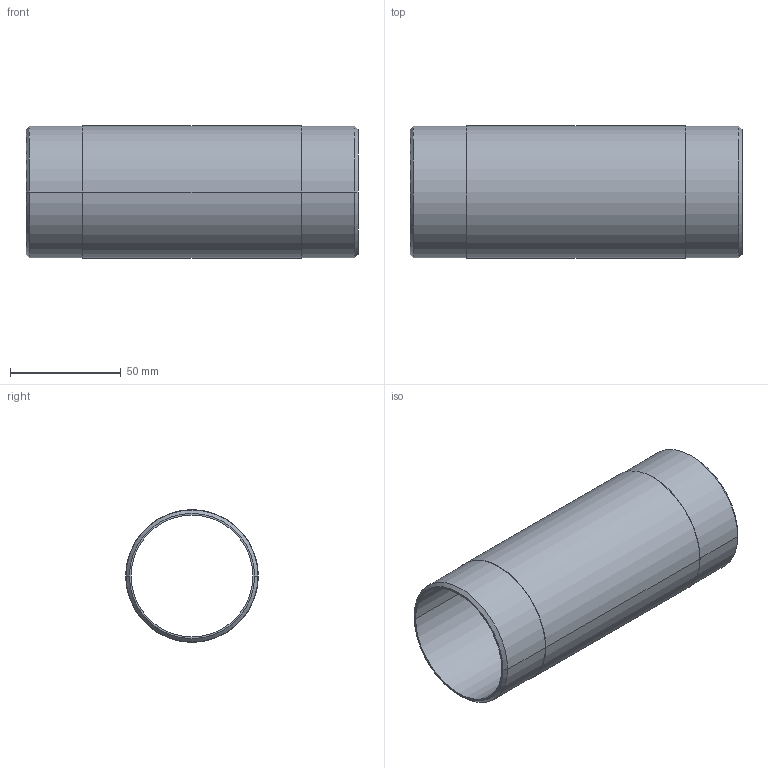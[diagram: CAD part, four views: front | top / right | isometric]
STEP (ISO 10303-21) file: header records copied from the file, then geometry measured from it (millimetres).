
FILE_DESCRIPTION((''),'2;1');
FILE_NAME('71118035','2012-04-24T',('LVVCSAVA'),('Copyright by Leybold GmbH'),'PRO/ENGINEER BY PARAMETRIC TECHNOLOGY CORPORATION, 2010430','PRO/ENGINEER BY PARAMETRIC TECHNOLOGY CORPORATION, 2010430','');
FILE_SCHEMA(('AUTOMOTIVE_DESIGN { 1 0 10303 214 1 1 1 1 }'));
Length unit declared in the file: millimetre
Products named in the file (1): 71118035
Bounding box: 150 x 60 x 60 mm (x, y, z)
Volume: 65395.1 mm3; surface area: 64383.4 mm2
Topology: 1 solids, 3 shells, 22 faces, 48 edges, 32 vertices
Faces by surface type: cylinder 12, plane 6, cone 4
Entity records: 871 total; most frequent: DIRECTION 126, CARTESIAN_POINT 105, ORIENTED_EDGE 88, AXIS2_PLACEMENT_3D 55, EDGE_CURVE 48, PROPERTY_DEFINITION 38, REPRESENTATION 36, PROPERTY_DEFINITION_REPRESENTATION 36
